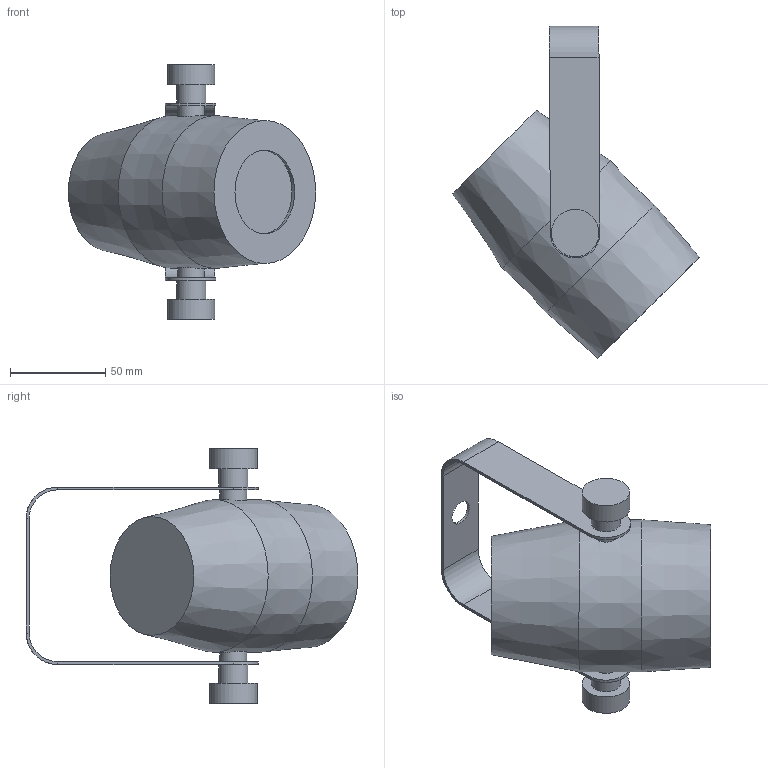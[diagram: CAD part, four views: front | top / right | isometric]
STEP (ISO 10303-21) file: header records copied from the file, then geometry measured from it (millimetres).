
FILE_DESCRIPTION(/* description */ (''),/* implementation_level */ '2;1');
FILE_NAME(/* name */ 'D:/dgooch/Documents/CADENG/PRO/Colordash Accent 3/45/3D/Colordash Accent 3_45.step',/* time_stamp */ '2019-09-11T14:45:58-04:00',/* author */ (''),/* organization */ (''),/* preprocessor_version */ 'ST-DEVELOPER v18',/* originating_system */ 'Autodesk Translation Framework v8.6.0.1094',/* authorisation */ '');
FILE_SCHEMA (('AUTOMOTIVE_DESIGN { 1 0 10303 214 3 1 1 }'));
Length unit declared in the file: millimetre
Products named in the file (3): Colordash Accent 3; Bracket; Main
Assembly tree (2 placements, depth 2):
  Colordash Accent 3
    Bracket
    Main
Bounding box: 129.54 x 173.89 x 133.24 mm (x, y, z)
Volume: 542531.3 mm3; surface area: 56969.6 mm2
Topology: 3 solids, 3 shells, 45 faces, 97 edges, 64 vertices
Faces by surface type: plane 27, cylinder 15, cone 3
Full cylindrical faces by diameter (mm): 5.2 x1, 13 x1, 14 x2, 15.313 x2, 24.873 x2, 44 x1
Entity records: 1389 total; most frequent: CARTESIAN_POINT 280, DIRECTION 239, ORIENTED_EDGE 194, EDGE_CURVE 97, AXIS2_PLACEMENT_3D 97, VERTEX_POINT 64, EDGE_LOOP 53, CIRCLE 47
